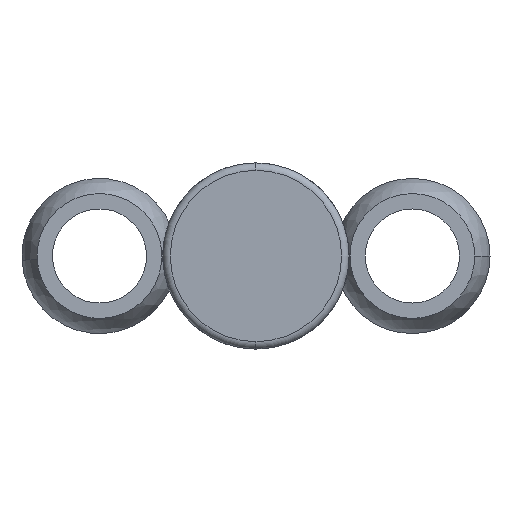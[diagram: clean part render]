
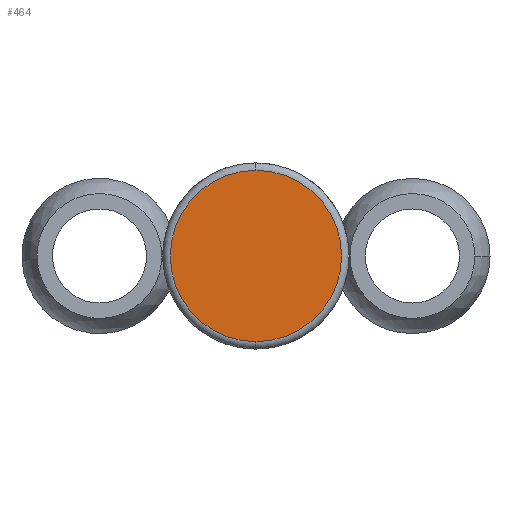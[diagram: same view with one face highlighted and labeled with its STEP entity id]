
A CAD part, front view. The second image highlights one B-rep face of the part: STEP entity #464.
In plain terms, the highlighted planar face has unit normal (0, -1, 0).
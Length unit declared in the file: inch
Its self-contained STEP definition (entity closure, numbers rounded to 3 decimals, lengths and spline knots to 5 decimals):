
#13 = VERTEX_POINT ( 'NONE', #808 ) ;
#20 = DIRECTION ( 'NONE',  ( 0., 1., 0. ) ) ;
#67 = ORIENTED_EDGE ( 'NONE', *, *, #1402, .T. ) ;
#132 = CIRCLE ( 'NONE', #480, 0.345 ) ;
#224 = CARTESIAN_POINT ( 'NONE',  ( 0., -1.25, 0. ) ) ;
#250 = CARTESIAN_POINT ( 'NONE',  ( 0., -1.25, 0. ) ) ;
#309 = DIRECTION ( 'NONE',  ( 0., -1., 0. ) ) ;
#421 = DIRECTION ( 'NONE',  ( 0., 0., 1. ) ) ;
#440 = DIRECTION ( 'NONE',  ( 0., 0., 1. ) ) ;
#446 = DIRECTION ( 'NONE',  ( 0., 0., 1. ) ) ;
#464 = ADVANCED_FACE ( 'NONE', ( #511 ), #1213, .F. ) ;
#474 = CIRCLE ( 'NONE', #1076, 0.345 ) ;
#480 = AXIS2_PLACEMENT_3D ( 'NONE', #515, #309, #421 ) ;
#511 = FACE_OUTER_BOUND ( 'NONE', #1219, .T. ) ;
#515 = CARTESIAN_POINT ( 'NONE',  ( 0., -1.25, 0. ) ) ;
#539 = EDGE_CURVE ( 'NONE', #905, #13, #474, .T. ) ;
#808 = CARTESIAN_POINT ( 'NONE',  ( 0., -1.25, 0.345 ) ) ;
#889 = DIRECTION ( 'NONE',  ( 0., -1., 0. ) ) ;
#896 = ORIENTED_EDGE ( 'NONE', *, *, #539, .T. ) ;
#905 = VERTEX_POINT ( 'NONE', #1315 ) ;
#1000 = AXIS2_PLACEMENT_3D ( 'NONE', #224, #20, #440 ) ;
#1076 = AXIS2_PLACEMENT_3D ( 'NONE', #250, #889, #446 ) ;
#1213 = PLANE ( 'NONE',  #1000 ) ;
#1219 = EDGE_LOOP ( 'NONE', ( #67, #896 ) ) ;
#1315 = CARTESIAN_POINT ( 'NONE',  ( 0., -1.25, -0.345 ) ) ;
#1402 = EDGE_CURVE ( 'NONE', #13, #905, #132, .T. ) ;
